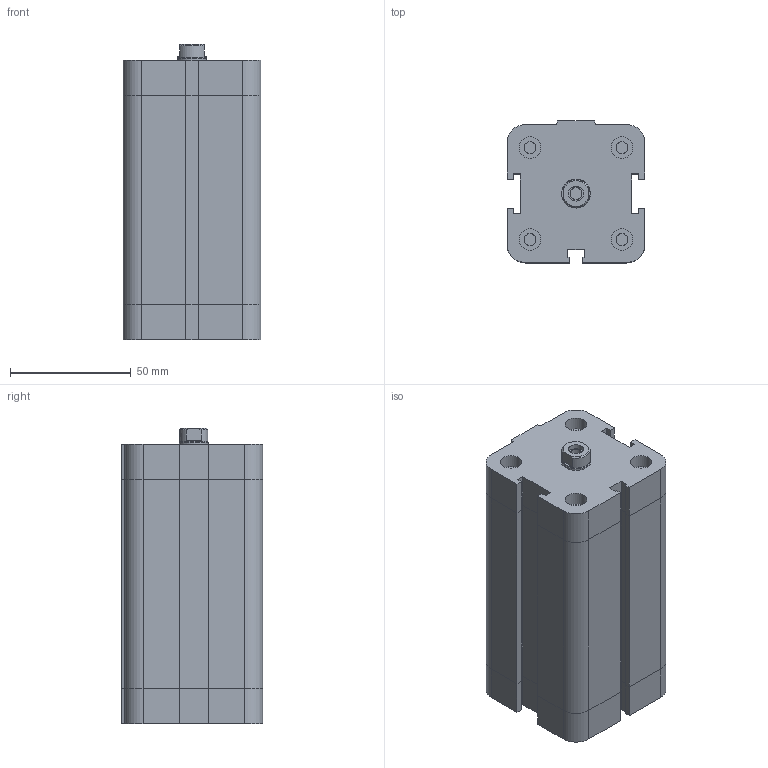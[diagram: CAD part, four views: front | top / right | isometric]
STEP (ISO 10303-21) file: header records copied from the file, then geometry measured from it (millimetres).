
FILE_DESCRIPTION((''),'2;1');
FILE_NAME('I:\Area Tecnica\Disegni\VARIE-3D\Componenti\EUROPE\15##_###_####_01_#\1561_40_0070_01_1.stp','2008-12-19T15:25:33',('rivolro1'),(''),'Autodesk Inventor 2009','Autodesk Inventor 2009','');
FILE_SCHEMA(('AUTOMOTIVE_DESIGN { 1 0 10303 214 1 1 1 1 }'));
Length unit declared in the file: millimetre
Products named in the file (3): 1561_40_0070_01_1; 1561_40_0070_01_1_C; 1561_40_0070_01_1_S
Assembly tree (2 placements, depth 2):
  1561_40_0070_01_1
    1561_40_0070_01_1_C
    1561_40_0070_01_1_S
Bounding box: 57 x 58.5 x 122 mm (x, y, z)
Volume: 345170 mm3; surface area: 47886.4 mm2
Topology: 2 solids, 2 shells, 163 faces, 349 edges, 211 vertices
Faces by surface type: plane 112, bspline 26, cylinder 22, cone 3
Full cylindrical faces by diameter (mm): 4.917 x4, 9 x4, 11.7 x1, 12 x1
Entity records: 4455 total; most frequent: CARTESIAN_POINT 952, DIRECTION 662, ORIENTED_EDGE 630, EDGE_CURVE 315, VECTOR 244, LINE 244, AXIS2_PLACEMENT_3D 209, EDGE_LOOP 208
